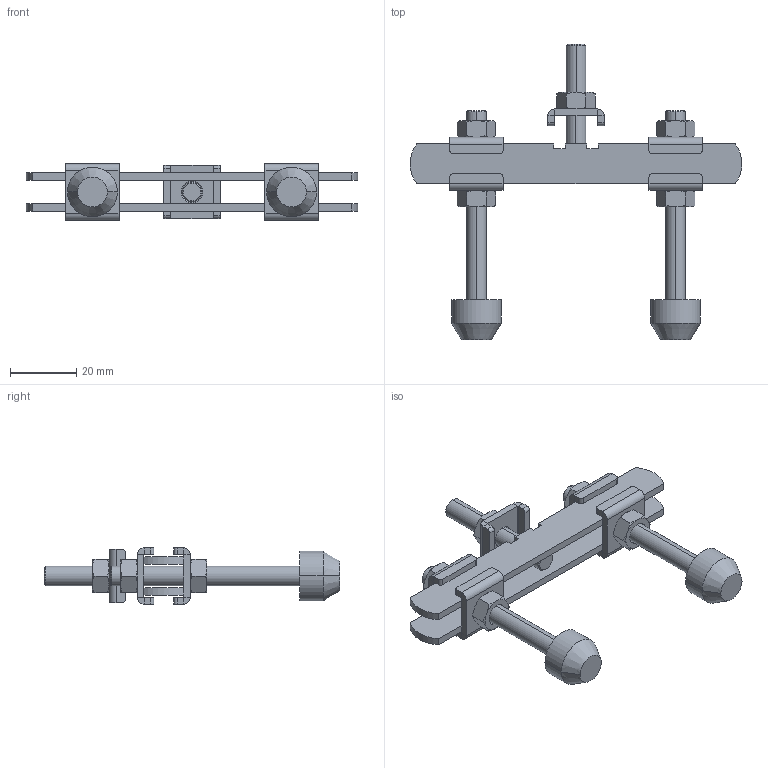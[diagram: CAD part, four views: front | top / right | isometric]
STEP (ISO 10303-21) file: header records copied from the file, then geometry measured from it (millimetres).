
FILE_DESCRIPTION (( 'STEP AP203' ), '1' );
FILE_NAME ('PBD-M6.STEP', '2016-07-25T18:11:30', ( 'Ricardo' ), ( '' ), 'SwSTEP 2.0', 'SolidWorks 2015', '' );
FILE_SCHEMA (( 'CONFIG_CONTROL_DESIGN' ));
Length unit declared in the file: millimetre
Products named in the file (7): 20.20013; 14.10004; 11.50001; 20.10002; PBD-M6; 10.20002; 20.20009
Assembly tree (17 placements, depth 2):
  PBD-M6
    20.20013  x2
    14.10004  x5
    11.50001  x5
    20.10002  x2
    10.20002
    20.20009  x2
Bounding box: 100 x 89 x 17 mm (x, y, z)
Volume: 17911.9 mm3; surface area: 16677.8 mm2
Topology: 17 solids, 17 shells, 344 faces, 750 edges, 438 vertices
Faces by surface type: plane 164, cone 100, cylinder 80
Entity records: 3698 total; most frequent: CARTESIAN_POINT 559, DIRECTION 481, ORIENTED_EDGE 406, EDGE_CURVE 203, AXIS2_PLACEMENT_3D 187, VERTEX_POINT 121, VECTOR 107, LINE 107
